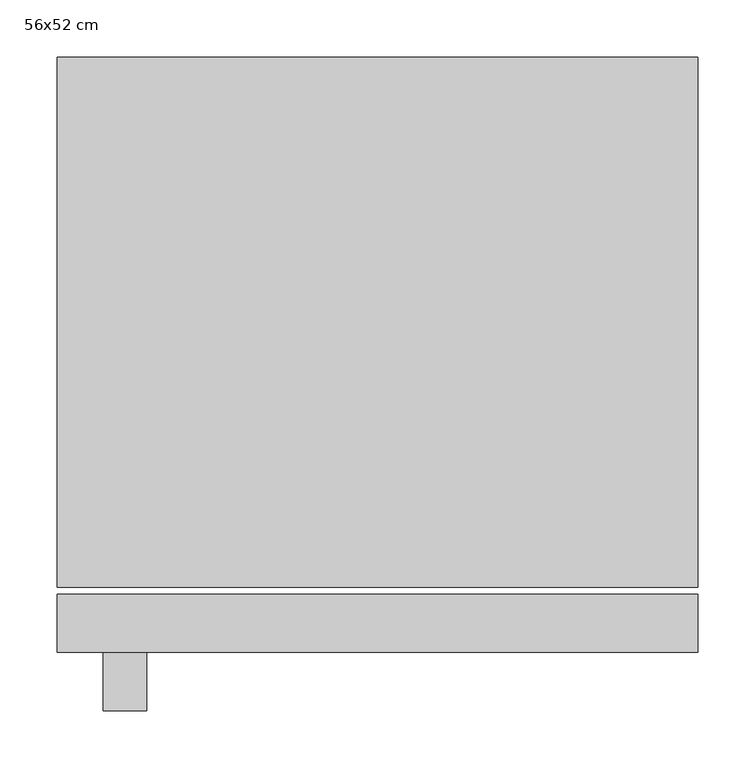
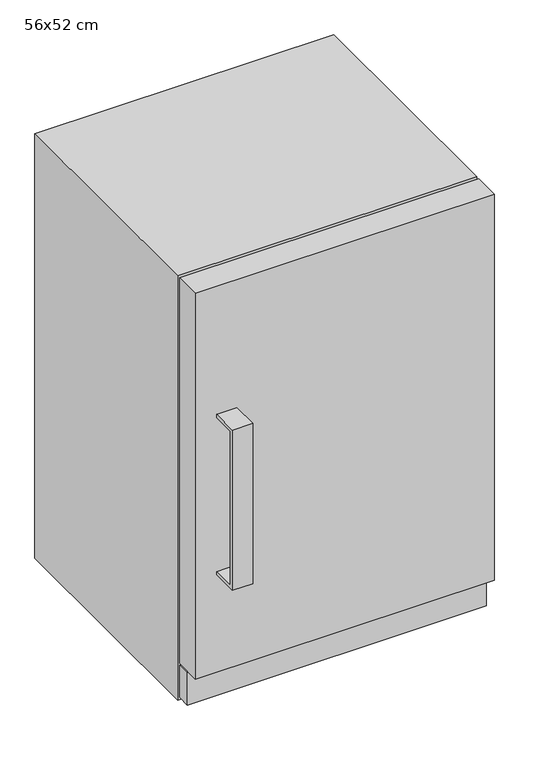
"""IFC4 building model written with IfcOpenShell, lengths in millimetres: proxy geometry, Congélateur - Vertical : 56x52 cm."""

from ifc_helpers import new_model, si_unit, frame, origin, origin_with_axes, place, context, project, spatial, polyline, outline, extrude, source, transform, mapped, element, save


def proxy_56x52_cm_e83d1485(model_context):
    return source(origin(), model_context, "Body", "SweptSolid", [
        extrude(outline(polyline([(-274.6760285, 579.65), (-319.1260285, 579.65), (-319.1260285, 274.85), (-274.6760285, 274.85), (-274.6760285, 268.5154683), (-325.4760285, 268.5154683), (-325.4760285, 586.0), (-274.6760285, 586.0), (-274.6760285, 579.65)])), frame((-240.0, 0.0, 0.0), z_axis=(1.0, 0.0, 0.0), x_axis=(0.0, 1.0, 0.0)), (0.0, 0.0, 1.0), 38.1),
        extrude(outline(polyline([(280.0, 245.3239715), (280.0, -217.5260285), (-280.0, -217.5260285), (-280.0, 245.3239715), (280.0, 245.3239715)])), origin_with_axes(), (0.0, 0.0, 1.0), 840.0),
        extrude(outline(polyline([(280.0, -223.8760285), (280.0, -249.2760285), (-280.0, -249.2760285), (-280.0, -223.8760285), (280.0, -223.8760285)])), frame((0.0, 0.0, 9.3816357), z_axis=(0.0, 0.0, 1.0), x_axis=(1.0, 0.0, 0.0)), (0.0, 0.0, 1.0), 63.5),
        extrude(outline(polyline([(280.0, -223.8760285), (280.0, -274.6760285), (-280.0, -274.6760285), (-280.0, -223.8760285), (280.0, -223.8760285)])), frame((0.0, 0.0, 76.2), z_axis=(0.0, 0.0, 1.0), x_axis=(1.0, 0.0, 0.0)), (0.0, 0.0, 1.0), 763.8),
    ])


if __name__ == "__main__":
    model = new_model("IFC4")
    model_context = context("Model", 3, world=origin())
    ifc_project = project(units=[si_unit("LENGTHUNIT", "METRE", prefix="MILLI")], contexts=[model_context])
    site = spatial("IfcSite", under=ifc_project)
    building = spatial("IfcBuilding", under=site)
    placement = place(None, origin())
    proxy_56x52_cm_shape = proxy_56x52_cm_e83d1485(model_context)
    element("IfcBuildingElementProxy", 1, Name="Congélateur - Vertical : 56x52 cm", ObjectType="Congélateur - Vertical : 56x52 cm", at=placement, inside=building, context=model_context, shape_type="MappedRepresentation", body=[
        mapped(proxy_56x52_cm_shape, transform((0.0, 0.0, 0.0), x_axis=(1.0, 0.0, 0.0), y_axis=(0.0, 1.0, 0.0), z_axis=(0.0, 0.0, 1.0))),
    ])
    save(model, "model.ifc")
